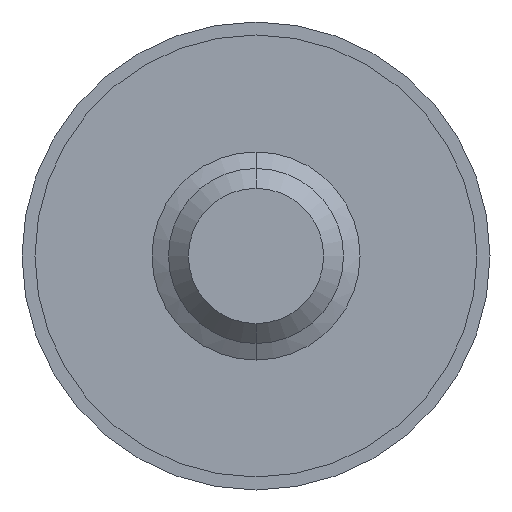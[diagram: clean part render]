
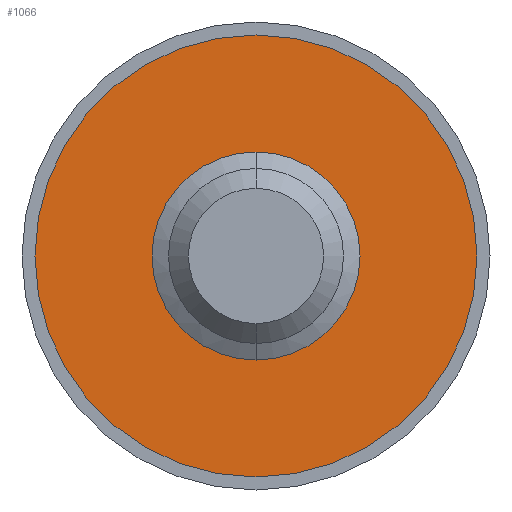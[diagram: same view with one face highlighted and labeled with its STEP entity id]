
A CAD part, front view. The second image highlights one B-rep face of the part: STEP entity #1066.
In plain terms, the highlighted planar face has unit normal (0, -1, 0).
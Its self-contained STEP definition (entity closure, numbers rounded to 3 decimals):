
#124 = AXIS2_PLACEMENT_3D ( 'NONE', #1631, #2427, #3044 ) ;
#191 = VERTEX_POINT ( 'NONE', #1401 ) ;
#231 = FACE_OUTER_BOUND ( 'NONE', #1755, .T. ) ;
#277 = CARTESIAN_POINT ( 'NONE',  ( 0., -0.5, -2. ) ) ;
#608 = AXIS2_PLACEMENT_3D ( 'NONE', #1105, #1359, #818 ) ;
#691 = AXIS2_PLACEMENT_3D ( 'NONE', #1032, #765, #1059 ) ;
#765 = DIRECTION ( 'NONE',  ( 0., 1., 0. ) ) ;
#818 = DIRECTION ( 'NONE',  ( 0., 0., 1. ) ) ;
#1032 = CARTESIAN_POINT ( 'NONE',  ( 0., -0.5, 0. ) ) ;
#1059 = DIRECTION ( 'NONE',  ( 0., 0., 1. ) ) ;
#1066 = ADVANCED_FACE ( 'NONE', ( #2649, #231 ), #3378, .F. ) ;
#1095 = EDGE_LOOP ( 'NONE', ( #2486, #1630 ) ) ;
#1105 = CARTESIAN_POINT ( 'NONE',  ( 0., -0.5, 0. ) ) ;
#1178 = VERTEX_POINT ( 'NONE', #277 ) ;
#1281 = CARTESIAN_POINT ( 'NONE',  ( 0., -0.5, 2. ) ) ;
#1306 = VERTEX_POINT ( 'NONE', #2000 ) ;
#1313 = ORIENTED_EDGE ( 'NONE', *, *, #3646, .F. ) ;
#1359 = DIRECTION ( 'NONE',  ( 0., 1., 0. ) ) ;
#1401 = CARTESIAN_POINT ( 'NONE',  ( 0., -0.5, 4.25 ) ) ;
#1457 = CIRCLE ( 'NONE', #3038, 2. ) ;
#1630 = ORIENTED_EDGE ( 'NONE', *, *, #2515, .F. ) ;
#1631 = CARTESIAN_POINT ( 'NONE',  ( 0., -0.5, 0. ) ) ;
#1654 = EDGE_CURVE ( 'NONE', #191, #1306, #2089, .T. ) ;
#1755 = EDGE_LOOP ( 'NONE', ( #2058, #1313 ) ) ;
#2000 = CARTESIAN_POINT ( 'NONE',  ( 0., -0.5, -4.25 ) ) ;
#2058 = ORIENTED_EDGE ( 'NONE', *, *, #1654, .F. ) ;
#2089 = CIRCLE ( 'NONE', #691, 4.25 ) ;
#2241 = DIRECTION ( 'NONE',  ( 0., -1., 0. ) ) ;
#2274 = CIRCLE ( 'NONE', #124, 2. ) ;
#2285 = CARTESIAN_POINT ( 'NONE',  ( 0., -0.5, 0. ) ) ;
#2427 = DIRECTION ( 'NONE',  ( 0., -1., 0. ) ) ;
#2486 = ORIENTED_EDGE ( 'NONE', *, *, #3442, .F. ) ;
#2515 = EDGE_CURVE ( 'NONE', #1178, #3277, #1457, .T. ) ;
#2558 = DIRECTION ( 'NONE',  ( 0., 0., 1. ) ) ;
#2649 = FACE_BOUND ( 'NONE', #1095, .T. ) ;
#3038 = AXIS2_PLACEMENT_3D ( 'NONE', #3137, #2241, #3123 ) ;
#3044 = DIRECTION ( 'NONE',  ( 0., 0., -1. ) ) ;
#3123 = DIRECTION ( 'NONE',  ( 0., 0., -1. ) ) ;
#3137 = CARTESIAN_POINT ( 'NONE',  ( 0., -0.5, 0. ) ) ;
#3157 = DIRECTION ( 'NONE',  ( 0., 1., 0. ) ) ;
#3277 = VERTEX_POINT ( 'NONE', #1281 ) ;
#3378 = PLANE ( 'NONE',  #608 ) ;
#3442 = EDGE_CURVE ( 'NONE', #3277, #1178, #2274, .T. ) ;
#3449 = CIRCLE ( 'NONE', #3510, 4.25 ) ;
#3510 = AXIS2_PLACEMENT_3D ( 'NONE', #2285, #3157, #2558 ) ;
#3646 = EDGE_CURVE ( 'NONE', #1306, #191, #3449, .T. ) ;
